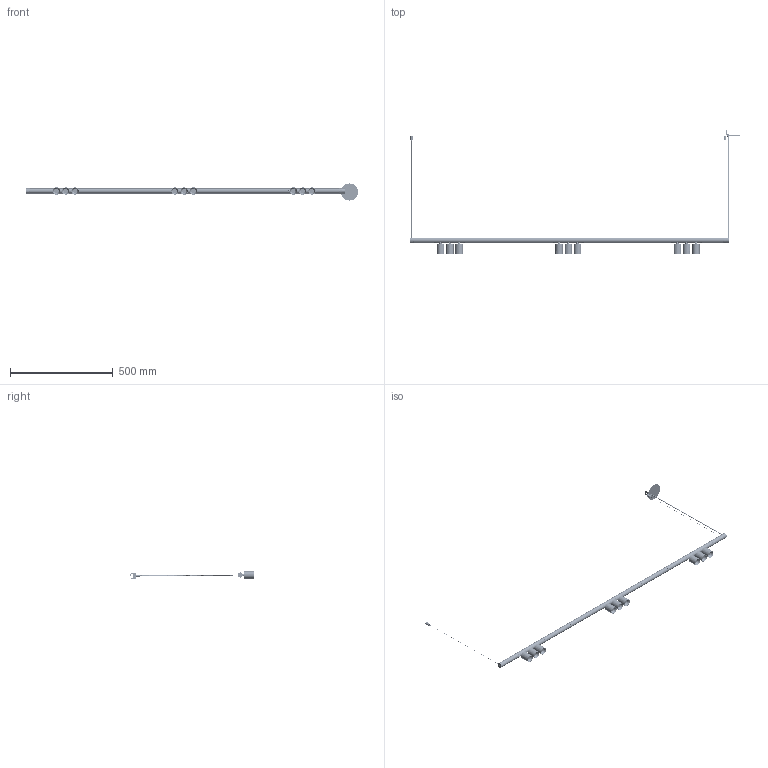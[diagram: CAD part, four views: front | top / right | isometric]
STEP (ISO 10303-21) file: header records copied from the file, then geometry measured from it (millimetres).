
FILE_DESCRIPTION (( 'STEP AP214' ), '1' );
FILE_NAME ('OVAL ROLL 15 rec.STEP', '2024-03-21T09:39:01', ( '' ), ( '' ), 'SwSTEP 2.0', 'SolidWorks 2024', '' );
FILE_SCHEMA (( 'AUTOMOTIVE_DESIGN' ));
Length unit declared in the file: millimetre
Products named in the file (40): 04-23DM10-Boca Roll 24V_Ajust 1.0; Cable acero_0.5m; CJ05-ENS_Roll (V1.2)_Proyector; Tija Tiny_Torno; Taco cuerpo Micro; Difusor Negro Oval_0.47m; Conector Molex Hembra 43020; Tapa Alimentación Perfil_SCPRE; Difusor Ø24_.8; Tuerca Hembra Conector Jack; CJ04-FOCO ROLL; Ensamblaje FLORON EMP. MICRO; 04-23DM08-Adaptador_Tapa_ Largo (V1.2)_24V; Tapa Floron Emp. MICRO_Tapa empotarable; Driver Entity EN1689; Jack_Scpre; Ensamble Conector Jack Unión_Alimentación Colgante SCPRE; 04-23DM07-Adaptador_Caja_ Larga_DM01.3; Ensamble Tensor Micro_Con Cable; CUI_DEVICES_PJ-005B_Ø2.5; Led VS MISTER 11_Disipador; Difusor Negro Oval_0.1m; 04-23DM03-Tope_Adaptador_1.3; Tapa Micro V5_V5.1; Floron U Muelle MICRO; Tapon Tapa_2; Cable_VISUAL Alimentación Micro; Tuerca M8_Predeterminada; eje cable colgante_M8 MICRO; Tapa Unión-Final V5_V5.1 Colgante Union ; 04-23DM09-Cuerpo Roll 24V; Perfil Micro V4_1.5m; Reflector Modulo VS-R11_2; Prisionero STEAB M4x4_8; OVAL ROLL 15 rec; Ensamble Tapa + Tope_Con Conector; COB VS MisterR11; Taco Micro_Ø10 M10*5; Ensamble MISTER 11 24V_Click; Regulador Cable Ø0.6 (Bereta LT1007.0601)
Assembly tree (49 placements, depth 5):
  OVAL ROLL 15 rec
    Perfil Micro V4_1.5m
    CJ05-ENS_Roll (V1.2)_Proyector  x3
      04-23DM07-Adaptador_Caja_ Larga_DM01.3
      04-23DM08-Adaptador_Tapa_ Largo (V1.2)_24V
      Conector Molex Hembra 43020
      Driver Entity EN1689
      04-23DM03-Tope_Adaptador_1.3
      CJ04-FOCO ROLL
        04-23DM09-Cuerpo Roll 24V
        Ensamble MISTER 11 24V_Click
          Led VS MISTER 11_Disipador
          Reflector Modulo VS-R11_2
          COB VS MisterR11
          Difusor Ø24_.8
          04-23DM10-Boca Roll 24V_Ajust 1.0
      Tija Tiny_Torno
    Difusor Negro Oval_0.1m  x2
    Difusor Negro Oval_0.47m  x2
    Ensamble Tapa + Tope_Con Conector  x2
      Tapa Micro V5_V5.1
      CUI_DEVICES_PJ-005B_Ø2.5
      Tuerca Hembra Conector Jack
    Ensamble Tensor Micro_Con Cable  x2
      Taco Micro_Ø10 M10*5
      Taco cuerpo Micro
      Regulador Cable Ø0.6 (Bereta LT1007.0601)
      Cable acero_0.5m
    Tapa Unión-Final V5_V5.1 Colgante Union   x2
    Ensamble Conector Jack Unión_Alimentación Colgante SCPRE
      Cable_VISUAL Alimentación Micro
      Jack_Scpre
      Tapa Alimentación Perfil_SCPRE
      Prisionero STEAB M4x4_8
    Ensamblaje FLORON EMP. MICRO
      Tapa Floron Emp. MICRO_Tapa empotarable
      Floron U Muelle MICRO
      eje cable colgante_M8 MICRO
      Tuerca M8_Predeterminada
    Tapon Tapa_2
Bounding box: 1611.94 x 597.37 x 83.01 mm (x, y, z)
Volume: 503757.8 mm3; surface area: 640313.5 mm2
Topology: 106 solids, 108 shells, 16424 faces, 42809 edges, 26794 vertices
Faces by surface type: cylinder 4437, plane 4431, bspline 4428, torus 1579, cone 1130, sphere 419
Entity records: 170365 total; most frequent: CARTESIAN_POINT 95421, ORIENTED_EDGE 16868, DIRECTION 13598, EDGE_CURVE 8434, VERTEX_POINT 5333, AXIS2_PLACEMENT_3D 5090, EDGE_LOOP 3457, LINE 3418
